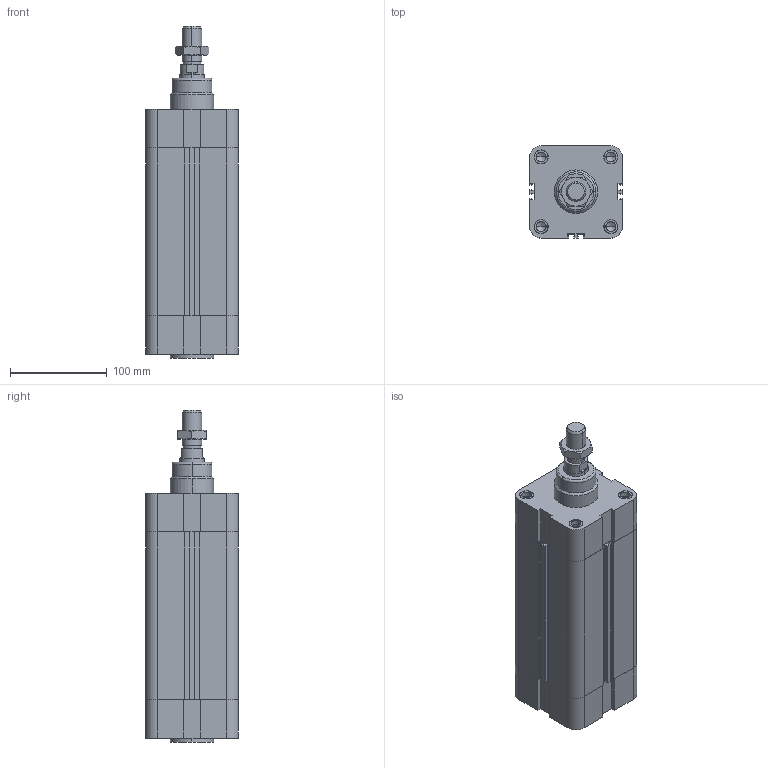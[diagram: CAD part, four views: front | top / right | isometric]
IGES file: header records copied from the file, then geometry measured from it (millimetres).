
Global section: file name: No Iges File Name specified; native system: Autodesk Inventor 2010; preprocessor: AutoDesk Inventor Iges Exporter R2010; author: rivolro1; date: 20090707.103418; units: millimetre
Bounding box: 95.5 x 95.5 x 343 mm (x, y, z)
Volume: 1716313.9 mm3; surface area: 256557.8 mm2
Topology: 5 solids, 5 shells, 290 faces, 694 edges, 440 vertices
Faces by surface type: plane 120, bspline 74, cylinder 40, revolution 34, cone 20, torus 2
